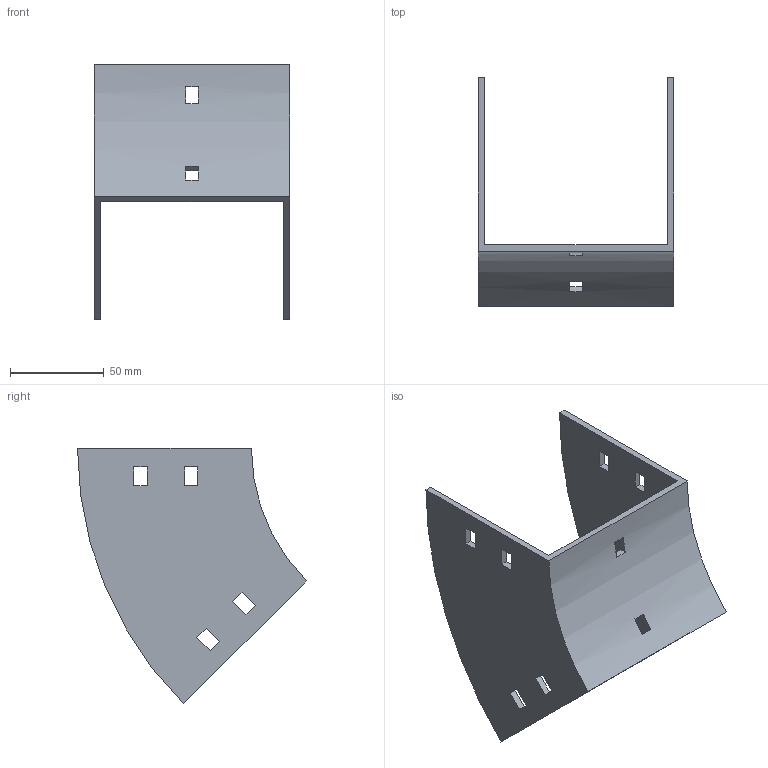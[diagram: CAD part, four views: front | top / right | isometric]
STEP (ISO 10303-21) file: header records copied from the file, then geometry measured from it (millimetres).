
FILE_DESCRIPTION (( 'STEP AP214' ), '1' );
FILE_NAME ('34B1I100.step', '2025-02-21T09:30:00', ( '' ), ( '' ), 'SwSTEP 2.0', 'SolidWorks 2023', '' );
FILE_SCHEMA (( 'AUTOMOTIVE_DESIGN' ));
Length unit declared in the file: millimetre
Products named in the file (1): 34B1I100
Bounding box: 104 x 121.79 x 136.12 mm (x, y, z)
Volume: 99130.5 mm3; surface area: 60840.8 mm2
Topology: 1 solids, 1 shells, 50 faces, 144 edges, 96 vertices
Faces by surface type: plane 46, cylinder 4
Entity records: 1687 total; most frequent: CARTESIAN_POINT 291, ORIENTED_EDGE 288, DIRECTION 262, EDGE_CURVE 144, VECTOR 128, LINE 128, VERTEX_POINT 96, EDGE_LOOP 70
